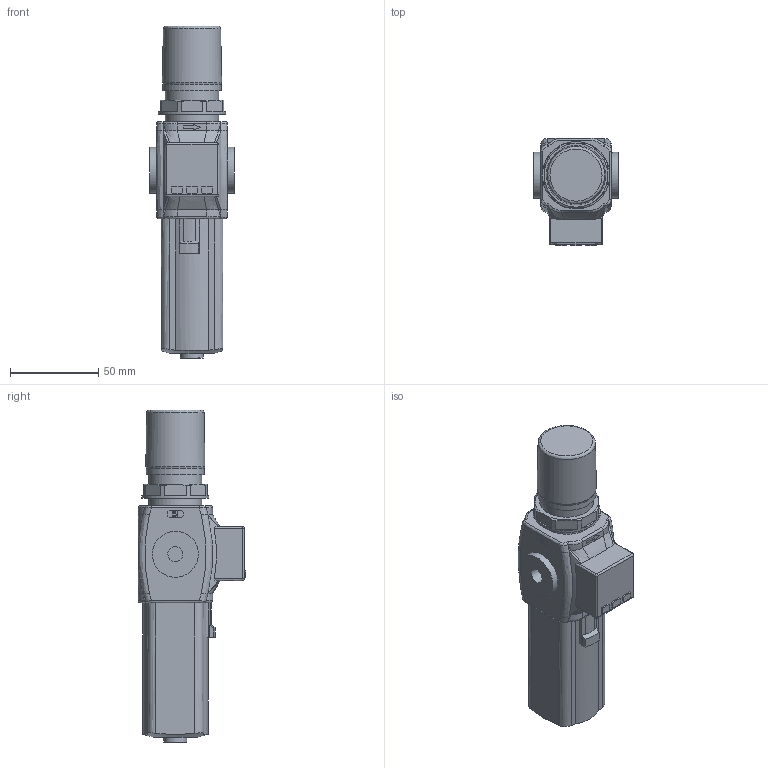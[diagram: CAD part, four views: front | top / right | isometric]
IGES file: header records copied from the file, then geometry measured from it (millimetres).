
Global section: file name: N171AEP##S; native system: Autodesk Inventor 2014; preprocessor: unknown; author: M. Valota; organization: Pneumax S.p.A.; date: 20140522.103009; units: millimetre
Bounding box: 48 x 60.8 x 187.6 mm (x, y, z)
Volume: 243971.6 mm3; surface area: 36495.3 mm2
Topology: 2 solids, 3 shells, 385 faces, 947 edges, 607 vertices
Faces by surface type: bspline 385
